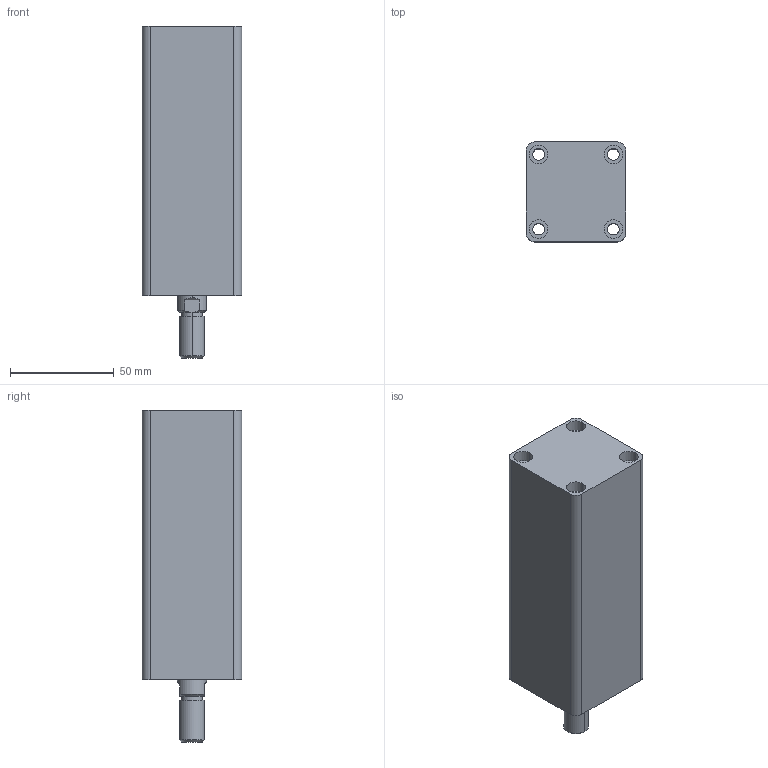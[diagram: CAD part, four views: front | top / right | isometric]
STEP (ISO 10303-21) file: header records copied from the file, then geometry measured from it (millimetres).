
FILE_DESCRIPTION (( 'STEP AP203' ), '1' );
FILE_NAME ('HTB-SD25-85W.STEP', '2019-10-07T06:20:31', ( '微软用户' ), ( '微软中国' ), 'SwSTEP 2.0', 'SolidWorks 2012', '' );
FILE_SCHEMA (( 'CONFIG_CONTROL_DESIGN' ));
Length unit declared in the file: millimetre
Products named in the file (3): HTB-SD25-85掛极; HTB-SD25-85W活塞杆; HTB-SD25-85W
Assembly tree (2 placements, depth 2):
  HTB-SD25-85W
    HTB-SD25-85掛极
    HTB-SD25-85W活塞杆
Bounding box: 48 x 48 x 160 mm (x, y, z)
Volume: 257121.7 mm3; surface area: 56034.2 mm2
Topology: 2 solids, 2 shells, 87 faces, 188 edges, 122 vertices
Faces by surface type: cylinder 44, plane 29, cone 8, torus 6
Entity records: 2759 total; most frequent: DIRECTION 476, CARTESIAN_POINT 446, ORIENTED_EDGE 376, AXIS2_PLACEMENT_3D 204, EDGE_CURVE 188, VERTEX_POINT 122, EDGE_LOOP 112, CIRCLE 112
